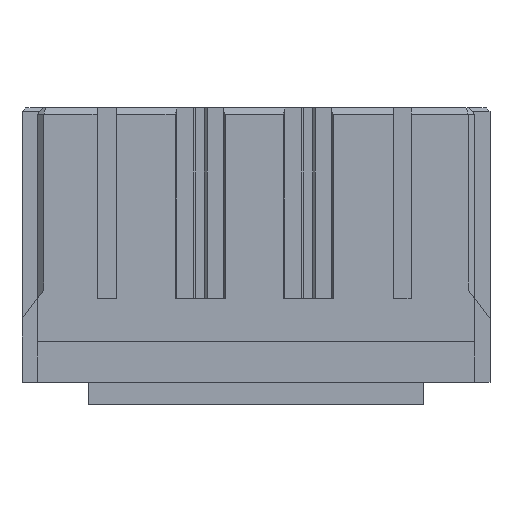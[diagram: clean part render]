
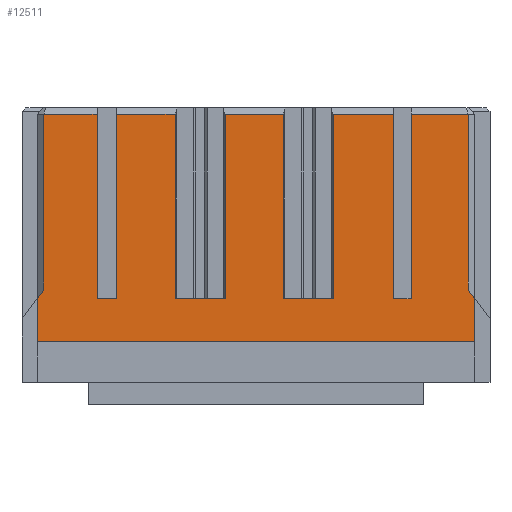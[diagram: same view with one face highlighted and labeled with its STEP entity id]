
A CAD part, front view. The second image highlights one B-rep face of the part: STEP entity #12511.
In plain terms, the highlighted planar face has unit normal (0, -1, 0).
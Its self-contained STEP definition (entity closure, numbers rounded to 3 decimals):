
#2416=DIRECTION('',(0.,0.,-1.));
#2417=VECTOR('',#2416,3.4);
#2418=CARTESIAN_POINT('',(17.2,-6.2,-15.));
#2419=LINE('',#2418,#2417);
#2696=DIRECTION('',(1.,0.,0.));
#2697=VECTOR('',#2696,1.55);
#2698=CARTESIAN_POINT('',(-12.5,-6.2,-15.));
#2699=LINE('',#2698,#2697);
#2712=DIRECTION('',(1.,0.,0.));
#2713=VECTOR('',#2712,1.4);
#2714=CARTESIAN_POINT('',(10.8,-6.2,-15.));
#2715=LINE('',#2714,#2713);
#2756=DIRECTION('',(1.,0.,0.));
#2757=VECTOR('',#2756,3.931);
#2758=CARTESIAN_POINT('',(-6.365,-6.2,-15.));
#2759=LINE('',#2758,#2757);
#2804=DIRECTION('',(1.,0.,0.));
#2805=VECTOR('',#2804,3.931);
#2806=CARTESIAN_POINT('',(2.135,-6.2,-15.));
#2807=LINE('',#2806,#2805);
#4100=DIRECTION('',(0.,0.,-1.));
#4101=VECTOR('',#4100,3.4);
#4102=CARTESIAN_POINT('',(-17.2,-6.2,-15.));
#4103=LINE('',#4102,#4101);
#4128=DIRECTION('',(0.,0.,-1.));
#4129=VECTOR('',#4128,13.834);
#4130=CARTESIAN_POINT('',(16.7,-6.2,-0.5));
#4131=LINE('',#4130,#4129);
#4132=DIRECTION('',(0.6,0.,-0.8));
#4133=VECTOR('',#4132,0.833);
#4134=CARTESIAN_POINT('',(16.7,-6.2,-14.334));
#4135=LINE('',#4134,#4133);
#4136=DIRECTION('',(1.,0.,0.));
#4137=VECTOR('',#4136,34.4);
#4138=CARTESIAN_POINT('',(-17.2,-6.2,-18.4));
#4139=LINE('',#4138,#4137);
#4140=DIRECTION('',(-0.6,0.,-0.8));
#4141=VECTOR('',#4140,0.833);
#4142=CARTESIAN_POINT('',(-16.7,-6.2,-14.334));
#4143=LINE('',#4142,#4141);
#4144=DIRECTION('',(0.,0.,-1.));
#4145=VECTOR('',#4144,13.834);
#4146=CARTESIAN_POINT('',(-16.7,-6.2,-0.5));
#4147=LINE('',#4146,#4145);
#4148=DIRECTION('',(1.,0.,0.));
#4149=VECTOR('',#4148,4.2);
#4150=CARTESIAN_POINT('',(-16.7,-6.2,-0.5));
#4151=LINE('',#4150,#4149);
#4152=DIRECTION('',(0.,0.,1.));
#4153=VECTOR('',#4152,14.5);
#4154=CARTESIAN_POINT('',(-12.5,-6.2,-15.));
#4155=LINE('',#4154,#4153);
#4156=DIRECTION('',(0.,0.,1.));
#4157=VECTOR('',#4156,14.5);
#4158=CARTESIAN_POINT('',(-10.95,-6.2,-15.));
#4159=LINE('',#4158,#4157);
#4160=DIRECTION('',(1.,0.,0.));
#4161=VECTOR('',#4160,4.585);
#4162=CARTESIAN_POINT('',(-10.95,-6.2,-0.5));
#4163=LINE('',#4162,#4161);
#4164=DIRECTION('',(0.,0.,1.));
#4165=VECTOR('',#4164,14.5);
#4166=CARTESIAN_POINT('',(-6.365,-6.2,-15.));
#4167=LINE('',#4166,#4165);
#4168=DIRECTION('',(0.,0.,1.));
#4169=VECTOR('',#4168,14.5);
#4170=CARTESIAN_POINT('',(-2.435,-6.2,-15.));
#4171=LINE('',#4170,#4169);
#4172=DIRECTION('',(1.,0.,0.));
#4173=VECTOR('',#4172,4.569);
#4174=CARTESIAN_POINT('',(-2.435,-6.2,-0.5));
#4175=LINE('',#4174,#4173);
#4176=DIRECTION('',(0.,0.,1.));
#4177=VECTOR('',#4176,14.5);
#4178=CARTESIAN_POINT('',(2.135,-6.2,-15.));
#4179=LINE('',#4178,#4177);
#4180=DIRECTION('',(0.,0.,1.));
#4181=VECTOR('',#4180,14.5);
#4182=CARTESIAN_POINT('',(6.065,-6.2,-15.));
#4183=LINE('',#4182,#4181);
#4184=DIRECTION('',(1.,0.,0.));
#4185=VECTOR('',#4184,4.735);
#4186=CARTESIAN_POINT('',(6.065,-6.2,-0.5));
#4187=LINE('',#4186,#4185);
#4188=DIRECTION('',(0.,0.,1.));
#4189=VECTOR('',#4188,14.5);
#4190=CARTESIAN_POINT('',(10.8,-6.2,-15.));
#4191=LINE('',#4190,#4189);
#4192=DIRECTION('',(0.,0.,1.));
#4193=VECTOR('',#4192,14.5);
#4194=CARTESIAN_POINT('',(12.2,-6.2,-15.));
#4195=LINE('',#4194,#4193);
#4196=DIRECTION('',(1.,0.,0.));
#4197=VECTOR('',#4196,4.5);
#4198=CARTESIAN_POINT('',(12.2,-6.2,-0.5));
#4199=LINE('',#4198,#4197);
#5705=CARTESIAN_POINT('',(17.2,-6.2,-18.4));
#5707=VERTEX_POINT('',#5705);
#5717=CARTESIAN_POINT('',(-17.2,-6.2,-18.4));
#5719=VERTEX_POINT('',#5717);
#6350=CARTESIAN_POINT('',(-12.5,-6.2,-15.));
#6351=CARTESIAN_POINT('',(-10.95,-6.2,-15.));
#6352=VERTEX_POINT('',#6350);
#6353=VERTEX_POINT('',#6351);
#6354=CARTESIAN_POINT('',(-6.365,-6.2,-15.));
#6355=CARTESIAN_POINT('',(-2.435,-6.2,-15.));
#6356=VERTEX_POINT('',#6354);
#6357=VERTEX_POINT('',#6355);
#6358=CARTESIAN_POINT('',(2.135,-6.2,-15.));
#6359=CARTESIAN_POINT('',(6.065,-6.2,-15.));
#6360=VERTEX_POINT('',#6358);
#6361=VERTEX_POINT('',#6359);
#6362=CARTESIAN_POINT('',(10.8,-6.2,-15.));
#6363=CARTESIAN_POINT('',(12.2,-6.2,-15.));
#6364=VERTEX_POINT('',#6362);
#6365=VERTEX_POINT('',#6363);
#6554=CARTESIAN_POINT('',(-2.435,-6.2,-0.5));
#6555=CARTESIAN_POINT('',(2.135,-6.2,-0.5));
#6556=VERTEX_POINT('',#6554);
#6557=VERTEX_POINT('',#6555);
#6562=CARTESIAN_POINT('',(6.065,-6.2,-0.5));
#6563=CARTESIAN_POINT('',(10.8,-6.2,-0.5));
#6564=VERTEX_POINT('',#6562);
#6565=VERTEX_POINT('',#6563);
#6582=CARTESIAN_POINT('',(-10.95,-6.2,-0.5));
#6583=CARTESIAN_POINT('',(-6.365,-6.2,-0.5));
#6584=VERTEX_POINT('',#6582);
#6585=VERTEX_POINT('',#6583);
#6602=CARTESIAN_POINT('',(16.7,-6.2,-14.334));
#6603=CARTESIAN_POINT('',(17.2,-6.2,-15.));
#6604=VERTEX_POINT('',#6602);
#6605=VERTEX_POINT('',#6603);
#6608=CARTESIAN_POINT('',(-16.7,-6.2,-14.334));
#6609=CARTESIAN_POINT('',(-17.2,-6.2,-15.));
#6610=VERTEX_POINT('',#6608);
#6611=VERTEX_POINT('',#6609);
#6624=CARTESIAN_POINT('',(16.7,-6.2,-0.5));
#6625=VERTEX_POINT('',#6624);
#6639=CARTESIAN_POINT('',(-16.7,-6.2,-0.5));
#6641=VERTEX_POINT('',#6639);
#6652=CARTESIAN_POINT('',(12.2,-6.2,-0.5));
#6653=VERTEX_POINT('',#6652);
#6658=CARTESIAN_POINT('',(-12.5,-6.2,-0.5));
#6659=VERTEX_POINT('',#6658);
#12464=CARTESIAN_POINT('',(-17.2,-6.2,0.));
#12465=DIRECTION('',(0.,-1.,0.));
#12466=DIRECTION('',(1.,0.,0.));
#12467=AXIS2_PLACEMENT_3D('',#12464,#12465,#12466);
#12468=PLANE('',#12467);
#12470=ORIENTED_EDGE('',*,*,#12469,.T.);
#12471=ORIENTED_EDGE('',*,*,#10274,.T.);
#12472=ORIENTED_EDGE('',*,*,#10043,.T.);
#12474=ORIENTED_EDGE('',*,*,#12473,.F.);
#12475=ORIENTED_EDGE('',*,*,#12389,.F.);
#12476=ORIENTED_EDGE('',*,*,#10763,.F.);
#12478=ORIENTED_EDGE('',*,*,#12477,.F.);
#12480=ORIENTED_EDGE('',*,*,#12479,.T.);
#12482=ORIENTED_EDGE('',*,*,#12481,.F.);
#12483=ORIENTED_EDGE('',*,*,#10544,.T.);
#12485=ORIENTED_EDGE('',*,*,#12484,.T.);
#12487=ORIENTED_EDGE('',*,*,#12486,.T.);
#12489=ORIENTED_EDGE('',*,*,#12488,.F.);
#12490=ORIENTED_EDGE('',*,*,#10590,.T.);
#12492=ORIENTED_EDGE('',*,*,#12491,.T.);
#12494=ORIENTED_EDGE('',*,*,#12493,.T.);
#12496=ORIENTED_EDGE('',*,*,#12495,.F.);
#12497=ORIENTED_EDGE('',*,*,#10622,.T.);
#12499=ORIENTED_EDGE('',*,*,#12498,.T.);
#12501=ORIENTED_EDGE('',*,*,#12500,.T.);
#12503=ORIENTED_EDGE('',*,*,#12502,.F.);
#12504=ORIENTED_EDGE('',*,*,#10560,.T.);
#12506=ORIENTED_EDGE('',*,*,#12505,.T.);
#12508=ORIENTED_EDGE('',*,*,#12507,.T.);
#12509=EDGE_LOOP('',(#12470,#12471,#12472,#12474,#12475,#12476,#12478,#12480,
#12482,#12483,#12485,#12487,#12489,#12490,#12492,#12494,#12496,#12497,#12499,
#12501,#12503,#12504,#12506,#12508));
#12510=FACE_OUTER_BOUND('',#12509,.F.);
#12511=ADVANCED_FACE('',(#12510),#12468,.T.);
#10043=EDGE_CURVE('',#6605,#5707,#2419,.T.);
#10274=EDGE_CURVE('',#6604,#6605,#4135,.T.);
#10544=EDGE_CURVE('',#6352,#6353,#2699,.T.);
#10560=EDGE_CURVE('',#6364,#6365,#2715,.T.);
#10590=EDGE_CURVE('',#6356,#6357,#2759,.T.);
#10622=EDGE_CURVE('',#6360,#6361,#2807,.T.);
#10763=EDGE_CURVE('',#6610,#6611,#4143,.T.);
#12389=EDGE_CURVE('',#6611,#5719,#4103,.T.);
#12469=EDGE_CURVE('',#6625,#6604,#4131,.T.);
#12473=EDGE_CURVE('',#5719,#5707,#4139,.T.);
#12477=EDGE_CURVE('',#6641,#6610,#4147,.T.);
#12479=EDGE_CURVE('',#6641,#6659,#4151,.T.);
#12481=EDGE_CURVE('',#6352,#6659,#4155,.T.);
#12484=EDGE_CURVE('',#6353,#6584,#4159,.T.);
#12486=EDGE_CURVE('',#6584,#6585,#4163,.T.);
#12488=EDGE_CURVE('',#6356,#6585,#4167,.T.);
#12491=EDGE_CURVE('',#6357,#6556,#4171,.T.);
#12493=EDGE_CURVE('',#6556,#6557,#4175,.T.);
#12495=EDGE_CURVE('',#6360,#6557,#4179,.T.);
#12498=EDGE_CURVE('',#6361,#6564,#4183,.T.);
#12500=EDGE_CURVE('',#6564,#6565,#4187,.T.);
#12502=EDGE_CURVE('',#6364,#6565,#4191,.T.);
#12505=EDGE_CURVE('',#6365,#6653,#4195,.T.);
#12507=EDGE_CURVE('',#6653,#6625,#4199,.T.);
